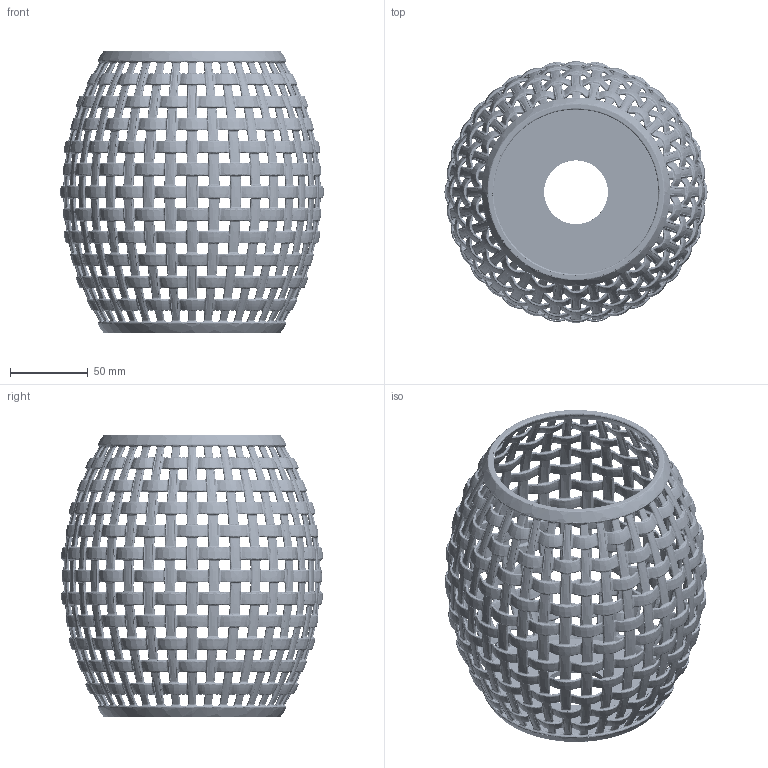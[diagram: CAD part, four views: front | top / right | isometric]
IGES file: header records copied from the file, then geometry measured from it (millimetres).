
Global section: file name: C:\Users\mveid\Desktop\Lampe fein.igs; native system: NX V8.0; preprocessor: SIEMENS PLM Software NX 8.0; date: 20140604.131142; units: millimetre
Bounding box: 169.22 x 168.15 x 181.39 mm (x, y, z)
Surface area: 187011.1 mm2 (no closed solid volume)
Topology: 0 solids, 0 shells, 6510 faces, 49010 edges, 50467 vertices
Faces by surface type: bspline 6510
